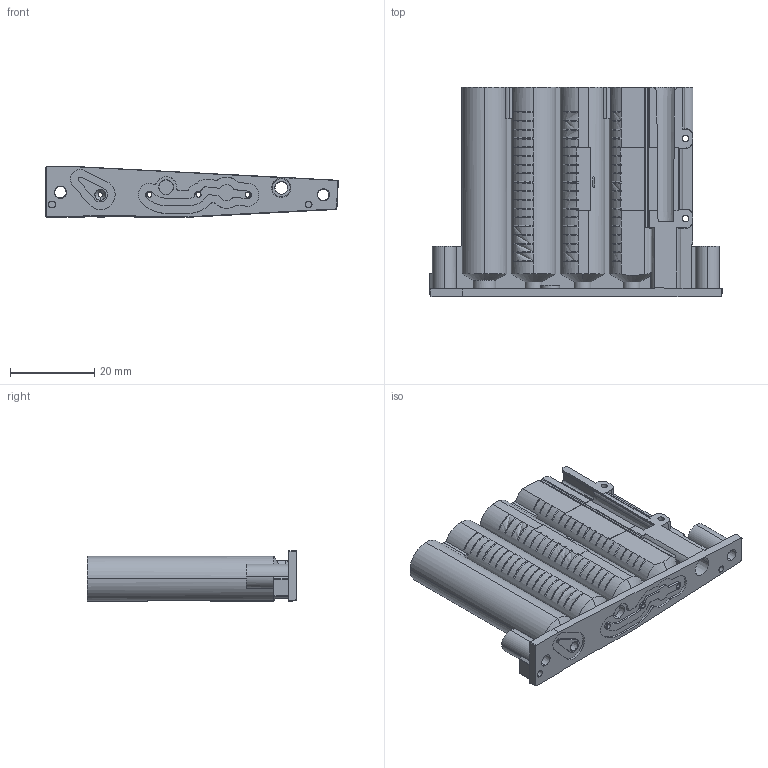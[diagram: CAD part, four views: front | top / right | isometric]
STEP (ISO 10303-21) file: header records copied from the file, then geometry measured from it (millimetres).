
FILE_DESCRIPTION (( 'STEP AP214' ), '1' );
FILE_NAME ('010301_LnG_syringe_rA.STEP', '2023-01-26T18:12:01', ( '' ), ( '' ), 'SwSTEP 2.0', 'SolidWorks 2019', '' );
FILE_SCHEMA (( 'AUTOMOTIVE_DESIGN' ));
Length unit declared in the file: millimetre
Products named in the file (1): 010301_LnG_syringe_rA
Bounding box: 69.56 x 49.8 x 12.04 mm (x, y, z)
Volume: 10984.1 mm3; surface area: 15220.9 mm2
Topology: 1 solids, 1 shells, 609 faces, 1674 edges, 1069 vertices
Faces by surface type: cone 251, plane 242, cylinder 112, sphere 2, bspline 2
Entity records: 19860 total; most frequent: CARTESIAN_POINT 4841, ORIENTED_EDGE 3328, DIRECTION 2958, EDGE_CURVE 1664, AXIS2_PLACEMENT_3D 1106, VERTEX_POINT 1069, LINE 746, VECTOR 746
